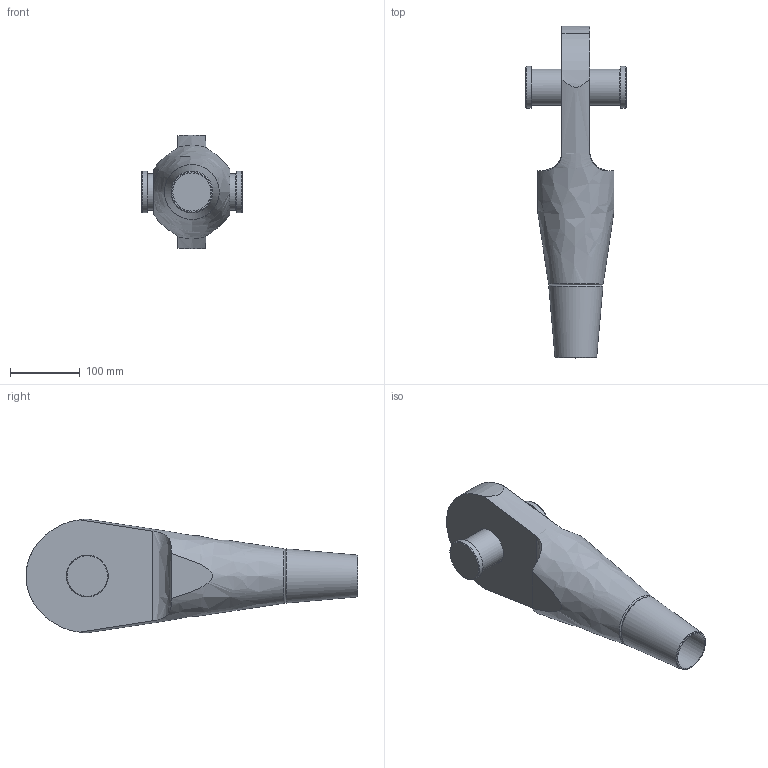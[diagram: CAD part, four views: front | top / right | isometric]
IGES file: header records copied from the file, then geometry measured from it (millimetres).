
Global section: file name: 520-052-OES; native system: Autodesk Inventor 2016; preprocessor: unknown; author: Administrator; date: 20200626.103510; units: centimetre
Bounding box: 144.44 x 475.81 x 162.59 mm (x, y, z)
Volume: 2943274 mm3; surface area: 207251.1 mm2
Topology: 2 solids, 4 shells, 49 faces, 120 edges, 82 vertices
Faces by surface type: bspline 49
